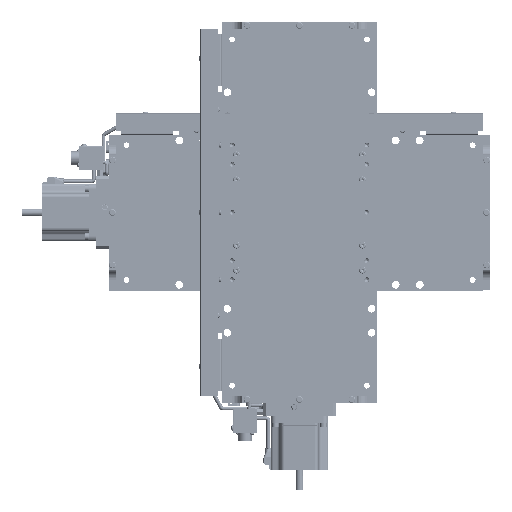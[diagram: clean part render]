
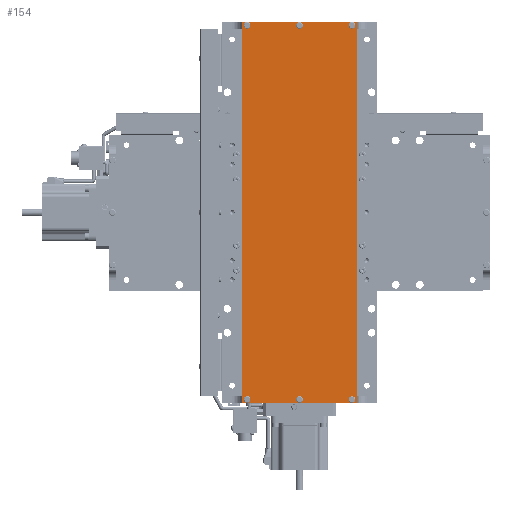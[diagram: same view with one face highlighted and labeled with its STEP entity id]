
A CAD part, top view. The second image highlights one B-rep face of the part: STEP entity #154.
In plain terms, the highlighted planar face has unit normal (0, 0, 1).
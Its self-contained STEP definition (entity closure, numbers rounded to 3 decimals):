
#154=ADVANCED_FACE('',(#5324,#5325,#5326,#5327,#5328,#5329,#5330),#5323,.T.);
#5323=PLANE('',#57197);
#5324=FACE_OUTER_BOUND('',#57198,.T.);
#5325=FACE_BOUND('',#57199,.T.);
#5326=FACE_BOUND('',#57200,.T.);
#5327=FACE_BOUND('',#57201,.T.);
#5328=FACE_BOUND('',#57202,.T.);
#5329=FACE_BOUND('',#57203,.T.);
#5330=FACE_BOUND('',#57204,.T.);
#57194=CARTESIAN_POINT('',(69.5,208.,122.5));
#57195=DIRECTION('',(0.,0.,1.));
#57196=DIRECTION('',(-1.,0.,0.));
#57197=AXIS2_PLACEMENT_3D('',#57194,#57195,#57196);
#57198=EDGE_LOOP('',(#89476,#89477,#89478,#89479,#89480,#89481));
#57199=EDGE_LOOP('',(#89482,#89483));
#57200=EDGE_LOOP('',(#89484,#89485));
#57201=EDGE_LOOP('',(#89486,#89487));
#57202=EDGE_LOOP('',(#89488,#89489));
#57203=EDGE_LOOP('',(#89490,#89491));
#57204=EDGE_LOOP('',(#89492,#89493));
#89476=ORIENTED_EDGE('',*,*,#114529,.T.);
#89477=ORIENTED_EDGE('',*,*,#114574,.T.);
#89478=ORIENTED_EDGE('',*,*,#114513,.T.);
#89479=ORIENTED_EDGE('',*,*,#114575,.T.);
#89480=ORIENTED_EDGE('',*,*,#114558,.F.);
#89481=ORIENTED_EDGE('',*,*,#114576,.T.);
#89482=ORIENTED_EDGE('',*,*,#114577,.F.);
#89483=ORIENTED_EDGE('',*,*,#114578,.F.);
#89484=ORIENTED_EDGE('',*,*,#114579,.F.);
#89485=ORIENTED_EDGE('',*,*,#114580,.F.);
#89486=ORIENTED_EDGE('',*,*,#114581,.F.);
#89487=ORIENTED_EDGE('',*,*,#114582,.F.);
#89488=ORIENTED_EDGE('',*,*,#114583,.F.);
#89489=ORIENTED_EDGE('',*,*,#114584,.F.);
#89490=ORIENTED_EDGE('',*,*,#114585,.F.);
#89491=ORIENTED_EDGE('',*,*,#114586,.F.);
#89492=ORIENTED_EDGE('',*,*,#114587,.F.);
#89493=ORIENTED_EDGE('',*,*,#114588,.F.);
#114513=EDGE_CURVE('',#127079,#127164,#127171,.T.);
#114529=EDGE_CURVE('',#127283,#127276,#127284,.T.);
#114558=EDGE_CURVE('',#127479,#127486,#127487,.T.);
#114574=EDGE_CURVE('',#127276,#127079,#127597,.T.);
#114575=EDGE_CURVE('',#127164,#127486,#127603,.T.);
#114576=EDGE_CURVE('',#127479,#127283,#127609,.T.);
#114577=EDGE_CURVE('',#127615,#127616,#127617,.T.);
#114578=EDGE_CURVE('',#127616,#127615,#127623,.T.);
#114579=EDGE_CURVE('',#127629,#127630,#127631,.T.);
#114580=EDGE_CURVE('',#127630,#127629,#127637,.T.);
#114581=EDGE_CURVE('',#127643,#127644,#127645,.T.);
#114582=EDGE_CURVE('',#127644,#127643,#127651,.T.);
#114583=EDGE_CURVE('',#127657,#127658,#127659,.T.);
#114584=EDGE_CURVE('',#127658,#127657,#127665,.T.);
#114585=EDGE_CURVE('',#127671,#127672,#127673,.T.);
#114586=EDGE_CURVE('',#127672,#127671,#127679,.T.);
#114587=EDGE_CURVE('',#127685,#127686,#127687,.T.);
#114588=EDGE_CURVE('',#127686,#127685,#127693,.T.);
#127079=VERTEX_POINT('',#210273);
#127164=VERTEX_POINT('',#210324);
#127171=LINE('',#210329,#210330);
#127276=VERTEX_POINT('',#210395);
#127283=VERTEX_POINT('',#210399);
#127284=LINE('',#210400,#210401);
#127479=VERTEX_POINT('',#210514);
#127486=VERTEX_POINT('',#210519);
#127487=LINE('',#210520,#210521);
#127597=LINE('',#210587,#210588);
#127603=LINE('',#210590,#210591);
#127609=LINE('',#210593,#210594);
#127615=VERTEX_POINT('',#210596);
#127616=VERTEX_POINT('',#210597);
#127617=CIRCLE('',#210601,3.495);
#127623=CIRCLE('',#210605,3.495);
#127629=VERTEX_POINT('',#210606);
#127630=VERTEX_POINT('',#210607);
#127631=CIRCLE('',#210611,3.495);
#127637=CIRCLE('',#210615,3.495);
#127643=VERTEX_POINT('',#210616);
#127644=VERTEX_POINT('',#210617);
#127645=CIRCLE('',#210621,3.495);
#127651=CIRCLE('',#210625,3.495);
#127657=VERTEX_POINT('',#210626);
#127658=VERTEX_POINT('',#210627);
#127659=CIRCLE('',#210631,3.495);
#127665=CIRCLE('',#210635,3.495);
#127671=VERTEX_POINT('',#210636);
#127672=VERTEX_POINT('',#210637);
#127673=CIRCLE('',#210641,3.495);
#127679=CIRCLE('',#210645,3.495);
#127685=VERTEX_POINT('',#210646);
#127686=VERTEX_POINT('',#210647);
#127687=CIRCLE('',#210651,3.495);
#127693=CIRCLE('',#210655,3.495);
#210273=CARTESIAN_POINT('',(35.,-198.,122.5));
#210324=CARTESIAN_POINT('',(59.5,-198.,122.5));
#210329=CARTESIAN_POINT('',(35.,-198.,122.5));
#210330=VECTOR('',#210331,24.5);
#210331=DIRECTION('',(1.,0.,0.));
#210395=CARTESIAN_POINT('',(-35.,-198.,122.5));
#210399=CARTESIAN_POINT('',(-59.5,-198.,122.5));
#210400=CARTESIAN_POINT('',(-59.5,-198.,122.5));
#210401=VECTOR('',#210402,24.5);
#210402=DIRECTION('',(1.,0.,0.));
#210514=CARTESIAN_POINT('',(-59.5,198.,122.5));
#210519=CARTESIAN_POINT('',(59.5,198.,122.5));
#210520=CARTESIAN_POINT('',(-59.5,198.,122.5));
#210521=VECTOR('',#210522,119.);
#210522=DIRECTION('',(1.,0.,0.));
#210587=CARTESIAN_POINT('',(-35.,-198.,122.5));
#210588=VECTOR('',#210589,70.);
#210589=DIRECTION('',(1.,0.,0.));
#210590=CARTESIAN_POINT('',(59.5,-198.,122.5));
#210591=VECTOR('',#210592,396.);
#210592=DIRECTION('',(0.,1.,0.));
#210593=CARTESIAN_POINT('',(-59.5,198.,122.5));
#210594=VECTOR('',#210595,396.);
#210595=DIRECTION('',(0.,-1.,0.));
#210596=CARTESIAN_POINT('',(3.495,-194.5,122.5));
#210597=CARTESIAN_POINT('',(-3.495,-194.5,122.5));
#210598=CARTESIAN_POINT('',(0.,-194.5,122.5));
#210599=DIRECTION('',(0.,0.,1.));
#210600=DIRECTION('',(-1.,0.,0.));
#210601=AXIS2_PLACEMENT_3D('',#210598,#210599,#210600);
#210602=CARTESIAN_POINT('',(0.,-194.5,122.5));
#210603=DIRECTION('',(0.,0.,1.));
#210604=DIRECTION('',(-1.,0.,0.));
#210605=AXIS2_PLACEMENT_3D('',#210602,#210603,#210604);
#210606=CARTESIAN_POINT('',(-51.005,-194.5,122.5));
#210607=CARTESIAN_POINT('',(-57.995,-194.5,122.5));
#210608=CARTESIAN_POINT('',(-54.5,-194.5,122.5));
#210609=DIRECTION('',(0.,0.,1.));
#210610=DIRECTION('',(-1.,0.,0.));
#210611=AXIS2_PLACEMENT_3D('',#210608,#210609,#210610);
#210612=CARTESIAN_POINT('',(-54.5,-194.5,122.5));
#210613=DIRECTION('',(0.,0.,1.));
#210614=DIRECTION('',(-1.,0.,0.));
#210615=AXIS2_PLACEMENT_3D('',#210612,#210613,#210614);
#210616=CARTESIAN_POINT('',(57.995,194.5,122.5));
#210617=CARTESIAN_POINT('',(51.005,194.5,122.5));
#210618=CARTESIAN_POINT('',(54.5,194.5,122.5));
#210619=DIRECTION('',(0.,0.,1.));
#210620=DIRECTION('',(-1.,0.,0.));
#210621=AXIS2_PLACEMENT_3D('',#210618,#210619,#210620);
#210622=CARTESIAN_POINT('',(54.5,194.5,122.5));
#210623=DIRECTION('',(0.,0.,1.));
#210624=DIRECTION('',(-1.,0.,0.));
#210625=AXIS2_PLACEMENT_3D('',#210622,#210623,#210624);
#210626=CARTESIAN_POINT('',(3.495,194.5,122.5));
#210627=CARTESIAN_POINT('',(-3.495,194.5,122.5));
#210628=CARTESIAN_POINT('',(0.,194.5,122.5));
#210629=DIRECTION('',(0.,0.,1.));
#210630=DIRECTION('',(-1.,0.,0.));
#210631=AXIS2_PLACEMENT_3D('',#210628,#210629,#210630);
#210632=CARTESIAN_POINT('',(0.,194.5,122.5));
#210633=DIRECTION('',(0.,0.,1.));
#210634=DIRECTION('',(-1.,0.,0.));
#210635=AXIS2_PLACEMENT_3D('',#210632,#210633,#210634);
#210636=CARTESIAN_POINT('',(-51.005,194.5,122.5));
#210637=CARTESIAN_POINT('',(-57.995,194.5,122.5));
#210638=CARTESIAN_POINT('',(-54.5,194.5,122.5));
#210639=DIRECTION('',(0.,0.,1.));
#210640=DIRECTION('',(-1.,0.,0.));
#210641=AXIS2_PLACEMENT_3D('',#210638,#210639,#210640);
#210642=CARTESIAN_POINT('',(-54.5,194.5,122.5));
#210643=DIRECTION('',(0.,0.,1.));
#210644=DIRECTION('',(-1.,0.,0.));
#210645=AXIS2_PLACEMENT_3D('',#210642,#210643,#210644);
#210646=CARTESIAN_POINT('',(57.995,-194.5,122.5));
#210647=CARTESIAN_POINT('',(51.005,-194.5,122.5));
#210648=CARTESIAN_POINT('',(54.5,-194.5,122.5));
#210649=DIRECTION('',(0.,0.,1.));
#210650=DIRECTION('',(-1.,0.,0.));
#210651=AXIS2_PLACEMENT_3D('',#210648,#210649,#210650);
#210652=CARTESIAN_POINT('',(54.5,-194.5,122.5));
#210653=DIRECTION('',(0.,0.,1.));
#210654=DIRECTION('',(-1.,0.,0.));
#210655=AXIS2_PLACEMENT_3D('',#210652,#210653,#210654);
